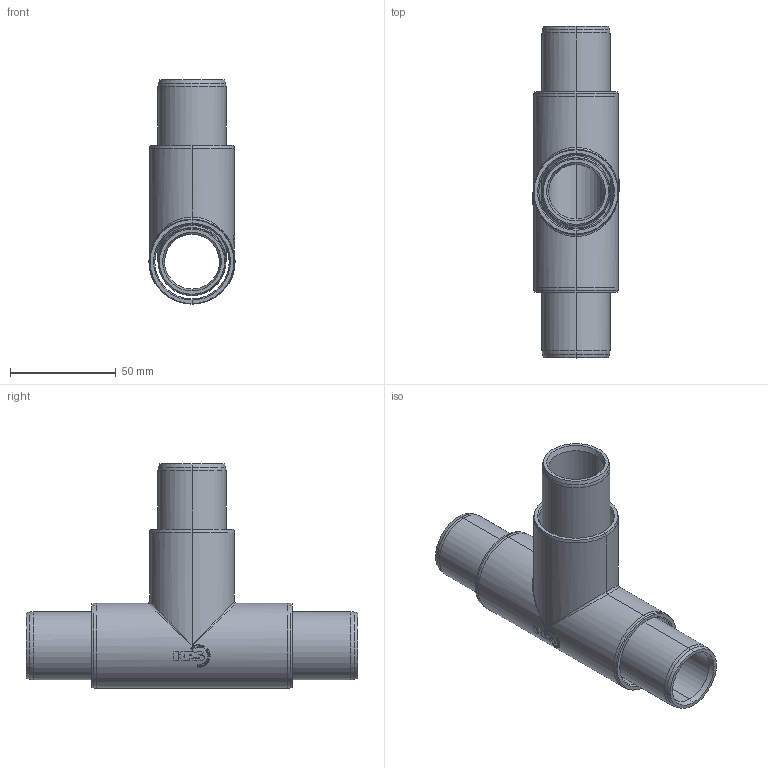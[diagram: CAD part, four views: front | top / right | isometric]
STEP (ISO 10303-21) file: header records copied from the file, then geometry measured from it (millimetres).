
FILE_DESCRIPTION (( 'STEP AP214' ), '1' );
FILE_NAME ('KP_8-40-32SCEC.STEP', '2022-04-27T05:24:10', ( '' ), ( '' ), 'SwSTEP 2.0', 'SolidWorks 2022', '' );
FILE_SCHEMA (( 'AUTOMOTIVE_DESIGN' ));
Length unit declared in the file: millimetre
Products named in the file (4): KP 8-40SC green; KP 8-32FC; KP_8-40-32SCEC
Assembly tree (3 placements, depth 3):
  KP_8-40-32SCEC
    KP 8-40SC green
    KP 8-32FC
      KP 8-32FC
Bounding box: 40.7 x 157 x 106.1 mm (x, y, z)
Volume: 100701.5 mm3; surface area: 72007.8 mm2
Topology: 3 solids, 3 shells, 677 faces, 1757 edges, 1149 vertices
Faces by surface type: plane 420, bspline 154, cylinder 67, cone 26, torus 10
Entity records: 33324 total; most frequent: CARTESIAN_POINT 18429, ORIENTED_EDGE 3498, DIRECTION 2070, EDGE_CURVE 1749, VERTEX_POINT 1149, VECTOR 808, LINE 808, EDGE_LOOP 756
